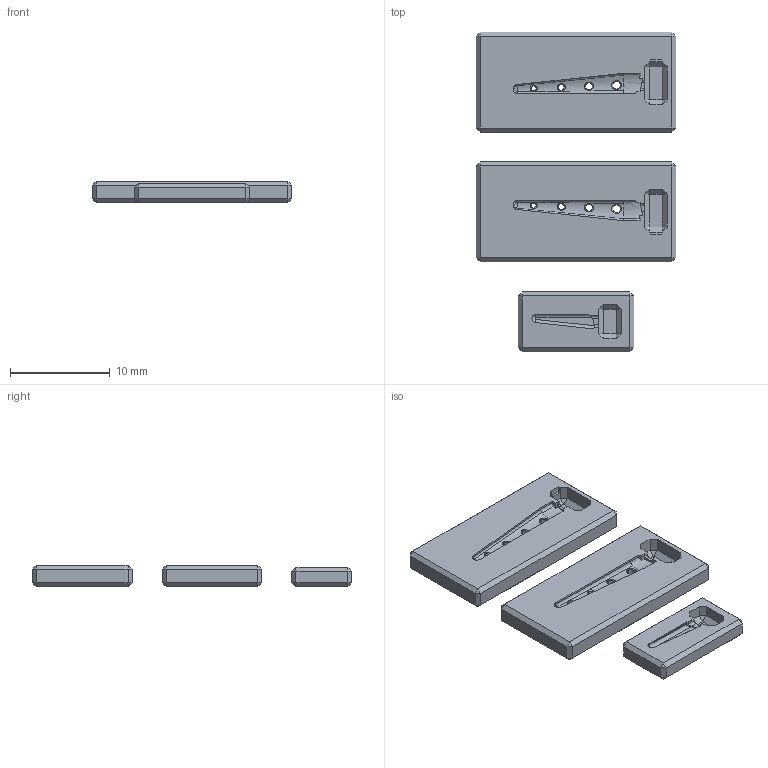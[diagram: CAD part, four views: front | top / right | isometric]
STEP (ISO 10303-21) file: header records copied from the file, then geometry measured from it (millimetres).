
FILE_DESCRIPTION(/* description */ (''),/* implementation_level */ '2;1');
FILE_NAME(/* name */ 'F6F-XA~3',/* time_stamp */ '2021-04-27T21:46:14+02:00',/* author */ (''),/* organization */ (''),/* preprocessor_version */ 'ST-DEVELOPER v16.5',/* originating_system */ '',/* authorisation */ '');
FILE_SCHEMA (('CONFIG_CONTROL_DESIGN'));
Length unit declared in the file: millimetre
Products named in the file (1): Document
Bounding box: 20 x 32 x 2.2 mm (x, y, z)
Volume: 918.6 mm3; surface area: 1288.3 mm2
Topology: 3 solids, 3 shells, 250 faces, 611 edges, 334 vertices
Faces by surface type: plane 127, bspline 94, cylinder 29
Entity records: 9616 total; most frequent: CARTESIAN_POINT 5639, ORIENTED_EDGE 1150, EDGE_CURVE 575, B_SPLINE_CURVE_WITH_KNOTS 494, VERTEX_POINT 334, EDGE_LOOP 269, ADVANCED_FACE 250, FACE_OUTER_BOUND 250
